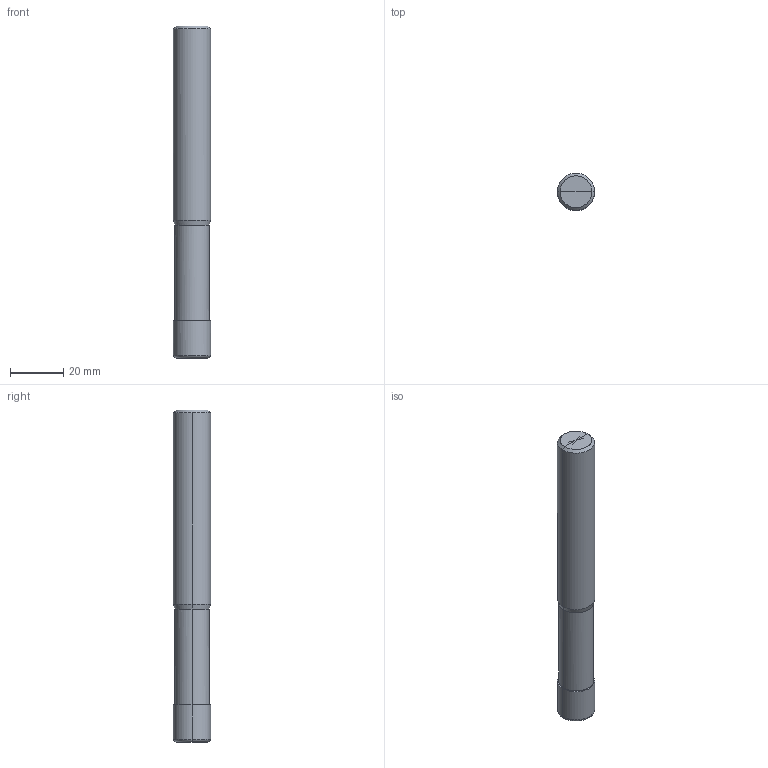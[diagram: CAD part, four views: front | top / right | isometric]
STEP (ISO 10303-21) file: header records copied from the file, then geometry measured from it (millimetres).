
FILE_DESCRIPTION(/* description */ (''),/* implementation_level */ '2;1');
FILE_NAME(/*name*/ '2001-14-1.0R',/*time_stamp*/'2021-3-22T14:39:48',/*author*/ ('ISBE GmbH'),/*organization*/ ('ISBE GmbH'),/*preprocessor_version*/ 'STEP IO v1.0',/*originating_system*/ '',/*authorisation*/ '');
FILE_SCHEMA (('AUTOMOTIVE_DESIGN'));
Length unit declared in the file: millimetre
Products named in the file (1): Document
Bounding box: 14 x 13.97 x 125 mm (x, y, z)
Surface area: 5941.1 mm2 (no closed solid volume)
Topology: 0 solids, 20 shells, 20 faces, 82 edges, 76 vertices
Faces by surface type: bspline 20
Entity records: 823 total; most frequent: CARTESIAN_POINT 468, VERTEX_POINT 72, EDGE_CURVE 72, ORIENTED_EDGE 72, EDGE_LOOP 20, FACE_OUTER_BOUND 20, ADVANCED_FACE 20, DIRECTION 16
